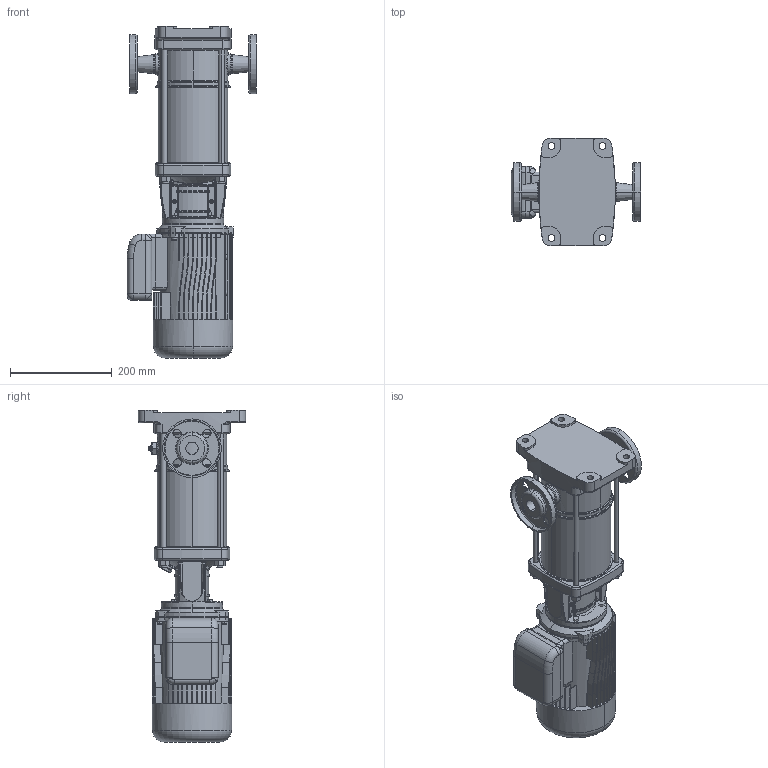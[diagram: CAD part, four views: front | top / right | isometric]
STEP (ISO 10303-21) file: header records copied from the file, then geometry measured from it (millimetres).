
FILE_DESCRIPTION((''),'2;1');
FILE_NAME('3SV08FL007T-D_ASM','2012-04-12T',('fmarcoli'),('LOWARA S.R.L.'),'PRO/ENGINEER BY PARAMETRIC TECHNOLOGY CORPORATION, 2011490','PRO/ENGINEER BY PARAMETRIC TECHNOLOGY CORPORATION, 2011490','');
FILE_SCHEMA(('CONFIG_CONTROL_DESIGN','SHAPE_APPEARANCE_LAYERS_GROUPS'));
Length unit declared in the file: millimetre
Products named in the file (7): 1-3SV08F-N; 1-3-5SV_LANTERNA_GR80; SM80B14_307-311-IE3; TAPPO-SCARICO-VALVOLA; TAPPO-CARICO; 002611470; 3SV08FL007T-D_ASM
Assembly tree (9 placements, depth 2):
  3SV08FL007T-D_ASM
    1-3SV08F-N
    1-3-5SV_LANTERNA_GR80
    SM80B14_307-311-IE3
    TAPPO-SCARICO-VALVOLA
    TAPPO-CARICO
    002611470  x4
Bounding box: 254 x 210 x 651 mm (x, y, z)
Volume: 10207361.8 mm3; surface area: 782477.9 mm2
Topology: 9 solids, 13 shells, 1616 faces, 4084 edges, 2538 vertices
Faces by surface type: plane 613, cylinder 585, torus 176, bspline 133, cone 95, sphere 14
Entity records: 69318 total; most frequent: CARTESIAN_POINT 17977, ORIENTED_EDGE 7464, DIRECTION 7415, PRESENTATION_STYLE_ASSIGNMENT 3920, EDGE_CURVE 3734, STYLED_ITEM 3460, CURVE_STYLE 3456, AXIS2_PLACEMENT_3D 2849
